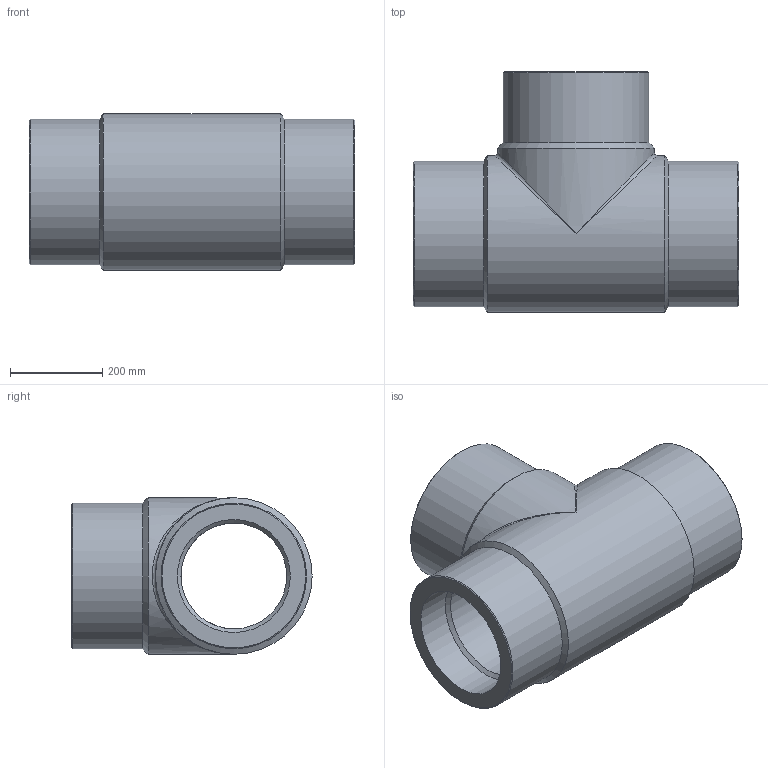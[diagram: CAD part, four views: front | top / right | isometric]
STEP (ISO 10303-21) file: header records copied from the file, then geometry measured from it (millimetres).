
FILE_DESCRIPTION(/* description */ ('Unknown'),/* implementation_level */ '2;1');
FILE_NAME(/* name */ 'TP315G',/* time_stamp */ '2021-06-22T16:15:47+02:00',/* author */ ('Unknown'),/* organization */ ('Unknown'),/* preprocessor_version */ 'ST-DEVELOPER v16.7',/* originating_system */ 'Solid Edge',/* authorisation */ 'Unknown');
FILE_SCHEMA (('AUTOMOTIVE_DESIGN {1 0 10303 214 3 1 1}'));
Length unit declared in the file: millimetre
Products named in the file (1): TP315G
Bounding box: 705 x 520 x 339 mm (x, y, z)
Volume: 35773998.4 mm3; surface area: 1638499.3 mm2
Topology: 1 solids, 1 shells, 24 faces, 55 edges, 29 vertices
Faces by surface type: cylinder 10, cone 9, plane 3, bspline 2
Full cylindrical faces by diameter (mm): 227.4 x1, 228.8 x1, 244.6 x3, 315 x3, 339 x2
Entity records: 737 total; most frequent: CARTESIAN_POINT 289, DIRECTION 96, ORIENTED_EDGE 52, EDGE_LOOP 48, FACE_BOUND 48, AXIS2_PLACEMENT_3D 48, EDGE_CURVE 26, VERTEX_POINT 24
